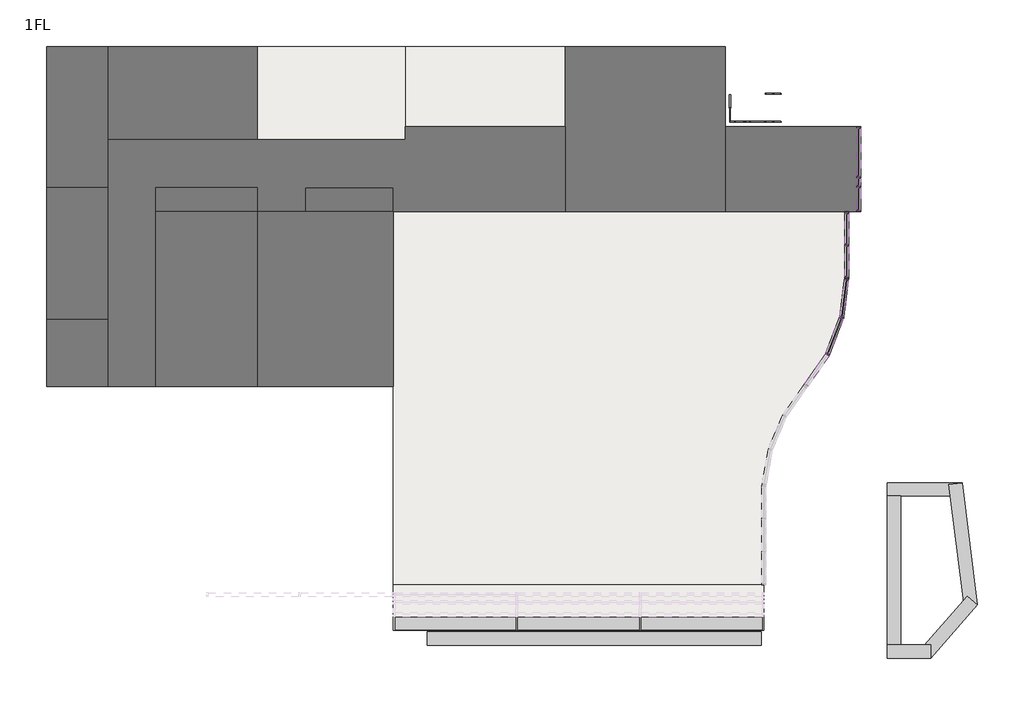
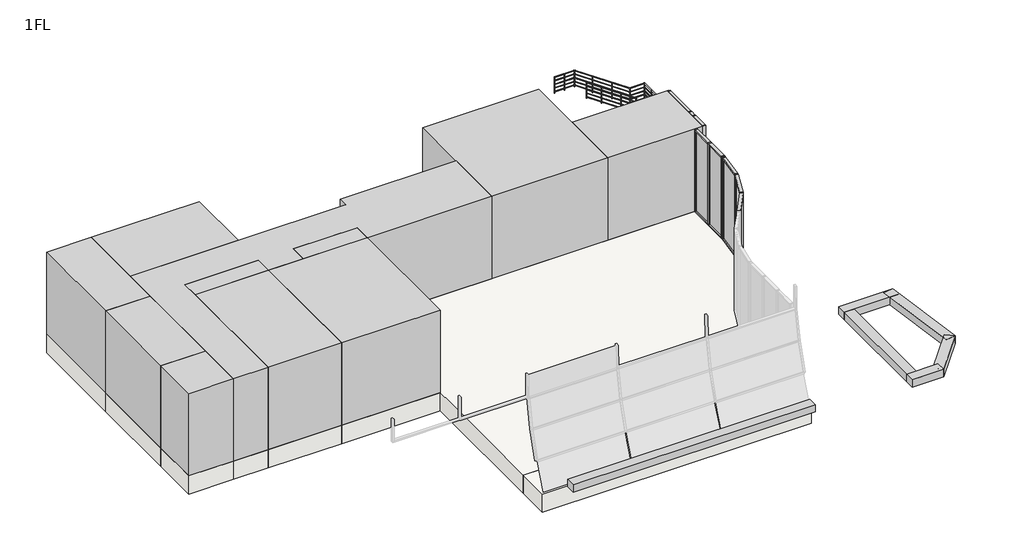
# One storey, part 2 of 2: 25 members, 15 slabs, 11 proxies, 6 geographic elements, 6 plates, 2 railings.
"""IFC4 building model written with IfcOpenShell, lengths in millimetres."""

from ifc_helpers import new_model, si_unit, point, frame, frame_2d, origin, place, context, project, spatial, polyline, circle_curve, trimmed, segment, composite_curve, outline, extrude, transform, mapped, element, save
from components import geographic_element_877a311b, geographic_element_e2d250f7, geographic_element_8ce92ec4, geographic_element_d346bba0, geographic_element_a76cbde5, geographic_element_775aa53c, member_70x150_003f591b, member_70x150_271f9d11, member_70x150_618c0de7, member_70x150_2bca83e0, member_70x150_567bd6b5, member_70x150_65f8fb8c, member_70x150_3043e185, member_70x150_30ccfd44, member_70x150_5d60a7e3, plate_c99299e2, plate_86cfdeea, plate_8e4a2d0e, plate_e174b267, plate_c840b4a1, railing_7acc2935, railing_788aefdd, railing_d2a92688

model = new_model("IFC4")

# Units and contexts
model_context = context("Model", 3, world=origin())
ifc_project = project(units=[si_unit("LENGTHUNIT", "METRE", prefix="MILLI")], contexts=[model_context])

# Site, building, storey
site = spatial("IfcSite", under=ifc_project)
building = spatial("IfcBuilding", under=site)
storey = spatial("IfcBuildingStorey", under=building, Name="1FL", Elevation=100.0)

# Proxies
placement = place(None, origin())
element("IfcBuildingElementProxy", 1, Name="i_共用 : i_共用", ObjectType="i_共用 : i_共用", at=placement, inside=storey, context=model_context, shape_type="SweptSolid", body=[
    extrude(outline(polyline([(-3395.9784025, 16649.6868987), (-3395.9784025, 10449.6868987), (-9395.9784025, 10449.6868987), (-9395.9784025, 16649.6868987), (-3395.9784025, 16649.6868987)])), frame((0.0, 0.0, 100.0), z_axis=(0.0, 0.0, 1.0), x_axis=(1.0, 0.0, 0.0)), (0.0, 0.0, 1.0), 4500.0),
])
element("IfcBuildingElementProxy", 2, Name="i_共用1 : i_共用", ObjectType="i_共用1 : i_共用", at=placement, inside=storey, context=model_context, shape_type="SweptSolid", body=[
    extrude(outline(polyline([(1604.0215975, 13649.6868987), (1604.0215975, 10449.6868987), (-3395.9784025, 10449.6868987), (-3395.9784025, 13649.6868987), (1604.0215975, 13649.6868987)])), frame((0.0, 0.0, 100.0), z_axis=(0.0, 0.0, 1.0), x_axis=(1.0, 0.0, 0.0)), (0.0, 0.0, 1.0), 4500.0),
])
element("IfcBuildingElementProxy", 3, Name="i_共用2 : i_共用", ObjectType="i_共用2 : i_共用", at=placement, inside=storey, context=model_context, shape_type="SweptSolid", body=[
    extrude(outline(polyline([(-15845.9784025, 10449.6868987), (-15845.9784025, 3899.6868987), (-20945.9784025, 3899.6868987), (-20945.9784025, 10449.6868987), (-15845.9784025, 10449.6868987)])), frame((0.0, 0.0, 100.0), z_axis=(0.0, 0.0, 1.0), x_axis=(1.0, 0.0, 0.0)), (0.0, 0.0, 1.0), 4500.0),
])
element("IfcBuildingElementProxy", 4, Name="i_共用3 : i_共用", ObjectType="i_共用3 : i_共用", at=placement, inside=storey, context=model_context, shape_type="SweptSolid", body=[
    extrude(outline(polyline([(-20945.9784025, 10449.6868987), (-20945.9784025, 3899.6868987), (-24745.9784025, 3899.6868987), (-24745.9784025, 10449.6868987), (-20945.9784025, 10449.6868987)])), frame((0.0, 0.0, 100.0), z_axis=(0.0, 0.0, 1.0), x_axis=(1.0, 0.0, 0.0)), (0.0, 0.0, 1.0), 4500.0),
])
element("IfcBuildingElementProxy", 5, Name="i_共用5 : i_共用", ObjectType="i_共用5 : i_共用", at=placement, inside=storey, context=model_context, shape_type="SweptSolid", body=[
    extrude(outline(polyline([(-26545.9784025, 6399.6868987), (-26545.9784025, 3899.6868987), (-28845.9784025, 3899.6868987), (-28845.9784025, 6399.6868987), (-26545.9784025, 6399.6868987)])), frame((0.0, 0.0, 100.0), z_axis=(0.0, 0.0, 1.0), x_axis=(1.0, 0.0, 0.0)), (0.0, 0.0, 1.0), 4500.0),
])
element("IfcBuildingElementProxy", 6, Name="i_共用6 : i_共用", ObjectType="i_共用6 : i_共用", at=placement, inside=storey, context=model_context, shape_type="SweptSolid", body=[
    extrude(outline(polyline([(-26545.9784025, 11349.6868987), (-26545.9784025, 6399.6868987), (-28845.9784025, 6399.6868987), (-28845.9784025, 11349.6868987), (-26545.9784025, 11349.6868987)])), frame((0.0, 0.0, 100.0), z_axis=(0.0, 0.0, 1.0), x_axis=(1.0, 0.0, 0.0)), (0.0, 0.0, 1.0), 4500.0),
])
element("IfcBuildingElementProxy", 7, Name="i_共用4 : i_共用", ObjectType="i_共用4 : i_共用", at=placement, inside=storey, context=model_context, shape_type="SweptSolid", body=[
    extrude(outline(polyline([(-20945.9784025, 11349.6868987), (-20945.9784025, 10449.6868987), (-24745.9784025, 10449.6868987), (-24745.9784025, 11349.6868987), (-20945.9784025, 11349.6868987)])), frame((0.0, 0.0, 100.0), z_axis=(0.0, 0.0, 1.0), x_axis=(1.0, 0.0, 0.0)), (0.0, 0.0, 1.0), 4500.0),
])
element("IfcBuildingElementProxy", 8, Name="i_共用7 : i_共用", ObjectType="i_共用7 : i_共用", at=placement, inside=storey, context=model_context, shape_type="SweptSolid", body=[
    extrude(outline(polyline([(-15845.9784025, 11349.6868987), (-15845.9784025, 10449.6868987), (-19145.9784025, 10449.6868987), (-19145.9784025, 11349.6868987), (-15845.9784025, 11349.6868987)])), frame((0.0, 0.0, 100.0), z_axis=(0.0, 0.0, 1.0), x_axis=(1.0, 0.0, 0.0)), (0.0, 0.0, 1.0), 4500.0),
])
element("IfcBuildingElementProxy", 9, Name="i_便所2 : i_便所2", ObjectType="i_便所2 : i_便所2", at=placement, inside=storey, context=model_context, shape_type="SweptSolid", body=[
    extrude(outline(polyline([(-20945.9784025, 13149.6868987), (-26545.9784025, 13149.6868987), (-26545.9784025, 16649.6868987), (-20945.9784025, 16649.6868987), (-20945.9784025, 13149.6868987)])), frame((0.0, 0.0, 100.0), z_axis=(0.0, 0.0, 1.0), x_axis=(1.0, 0.0, 0.0)), (0.0, 0.0, 1.0), 4500.0),
])
element("IfcBuildingElementProxy", 10, Name="i_共用8 : i_共用8", ObjectType="i_共用8 : i_共用8", at=placement, inside=storey, context=model_context, shape_type="SweptSolid", body=[
    extrude(outline(polyline([(-26545.9784025, 3899.6868987), (-26545.9784025, 13149.6868987), (-15395.9784025, 13149.6868987), (-15395.9784025, 13649.6868987), (-9395.9784025, 13649.6868987), (-9395.9784025, 10449.6868987), (-15845.9784025, 10449.6868987), (-15845.9784025, 11349.6868987), (-19145.9784025, 11349.6868987), (-19145.9784025, 10449.6868987), (-20945.9784025, 10449.6868987), (-20945.9784025, 11349.6868987), (-24745.9784025, 11349.6868987), (-24745.9784025, 3899.6868987), (-26545.9784025, 3899.6868987)])), frame((0.0, 0.0, 100.0), z_axis=(0.0, 0.0, 1.0), x_axis=(1.0, 0.0, 0.0)), (0.0, 0.0, 1.0), 4500.0),
])
element("IfcBuildingElementProxy", 11, Name="i_便所3 : i_便所2", ObjectType="i_便所3 : i_便所2", at=placement, inside=storey, context=model_context, shape_type="SweptSolid", body=[
    extrude(outline(polyline([(-26545.9784025, 11349.6868987), (-28845.9784025, 11349.6868987), (-28845.9784025, 16649.6868987), (-26545.9784025, 16649.6868987), (-26545.9784025, 11349.6868987)])), frame((0.0, 0.0, 100.0), z_axis=(0.0, 0.0, 1.0), x_axis=(1.0, 0.0, 0.0)), (0.0, 0.0, 1.0), 4500.0),
])

# Geographic elements
geographic_element_shape = geographic_element_877a311b(model_context)
element("IfcGeographicElement", 12, ObjectType="r 低木密植 : 低木密植", at=placement, inside=storey, context=model_context, shape_type="MappedRepresentation", body=[
    mapped(geographic_element_shape, transform((4304.0214212, -6300.3135097, 100.0), x_axis=(0.6591967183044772, 0.7519705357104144, 0.0), y_axis=(-0.7519705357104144, 0.6591967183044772, 0.0), z_axis=(0.0, 0.0, 1.0))),
])
geographic_element_2_shape = geographic_element_e2d250f7(model_context)
element("IfcGeographicElement", 13, ObjectType="r 低木密植 : 低木密植", at=placement, inside=storey, context=model_context, shape_type="MappedRepresentation", body=[
    mapped(geographic_element_2_shape, transform((5483.6861702, 282.9637955, 100.0), x_axis=(-1.0, 0.0, 0.0), y_axis=(0.0, -1.0, 0.0), z_axis=(0.0, 0.0, 1.0))),
])
geographic_element_3_shape = geographic_element_8ce92ec4(model_context)
element("IfcGeographicElement", 14, ObjectType="r 低木密植 : 低木密植", at=placement, inside=storey, context=model_context, shape_type="MappedRepresentation", body=[
    mapped(geographic_element_3_shape, transform((2683.6861702, -217.0362045, 100.0), x_axis=(0.0, -1.0, 0.0), y_axis=(1.0, 0.0, 0.0), z_axis=(0.0, 0.0, 1.0))),
])
geographic_element_4_shape = geographic_element_d346bba0(model_context)
element("IfcGeographicElement", 15, ObjectType="r 低木密植 : 低木密植", at=placement, inside=storey, context=model_context, shape_type="MappedRepresentation", body=[
    mapped(geographic_element_4_shape, transform((2683.6861702, -6300.3135097, 100.0), x_axis=(1.0, 0.0, 0.0), y_axis=(0.0, 1.0, 0.0), z_axis=(0.0, 0.0, 1.0))),
])
geographic_element_5_shape = geographic_element_a76cbde5(model_context)
element("IfcGeographicElement", 16, ObjectType="r 低木密植 : 低木密植", at=placement, inside=storey, context=model_context, shape_type="MappedRepresentation", body=[
    mapped(geographic_element_5_shape, transform((6057.2732352, -4300.3131013, 100.0), x_axis=(-0.12417914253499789, 0.9922598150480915, 0.0), y_axis=(-0.9922598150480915, -0.12417914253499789, 0.0), z_axis=(0.0, 0.0, 1.0))),
])
geographic_element_6_shape = geographic_element_775aa53c(model_context)
element("IfcGeographicElement", 17, ObjectType="r 低木密植 : 低木密植", at=placement, inside=storey, context=model_context, shape_type="MappedRepresentation", body=[
    mapped(geographic_element_6_shape, transform((-14574.0228018, -5807.9840539, 100.0), x_axis=(1.0, 0.0, 0.0), y_axis=(0.0, 1.0, 0.0), z_axis=(0.0, 0.0, 1.0))),
])

# Members
member_70x150_shape = member_70x150_003f591b(model_context)
element("IfcMember", 18, ObjectType="長方形のマリオン : 70x150", at=placement, inside=storey, context=model_context, shape_type="MappedRepresentation", body=[
    mapped(member_70x150_shape, transform((1154.0215975, 9199.6868987, 4600.0), x_axis=(0.0, -1.0, 0.0), y_axis=(1.0, 0.0, 0.0), z_axis=(0.0, 0.0, 1.0))),
])
element("IfcMember", 19, ObjectType="長方形のマリオン : 70x150", at=placement, inside=storey, context=model_context, shape_type="MappedRepresentation", body=[
    mapped(member_70x150_shape, transform((1604.0215975, 11389.6868987, 4600.0), x_axis=(0.0, -1.0, 0.0), y_axis=(1.0, 0.0, 0.0), z_axis=(0.0, 0.0, 1.0))),
])
element("IfcMember", 20, ObjectType="長方形のマリオン : 70x150", at=placement, inside=storey, context=model_context, shape_type="MappedRepresentation", body=[
    mapped(member_70x150_shape, transform((1604.0215975, 11749.6868987, 4600.0), x_axis=(0.0, -1.0, 0.0), y_axis=(1.0, 0.0, 0.0), z_axis=(0.0, 0.0, 1.0))),
])
member_70x150_2_shape = member_70x150_271f9d11(model_context)
element("IfcMember", 21, ObjectType="長方形のマリオン : 70x150", at=placement, inside=storey, context=model_context, shape_type="MappedRepresentation", body=[
    mapped(member_70x150_2_shape, transform((1154.0215975, 7949.6868987, 4600.0), x_axis=(0.0, -1.0, 0.0), y_axis=(1.0, 0.0, 0.0), z_axis=(0.0, 0.0, 1.0))),
])
element("IfcMember", 22, ObjectType="長方形のマリオン : 70x150", at=placement, inside=storey, context=model_context, shape_type="MappedRepresentation", body=[
    mapped(member_70x150_2_shape, transform((1604.0215975, 10449.6868987, 4600.0), x_axis=(0.0, -1.0, 0.0), y_axis=(1.0, 0.0, 0.0), z_axis=(0.0, 0.0, 1.0))),
])
element("IfcMember", 23, ObjectType="長方形のマリオン : 70x150", at=placement, inside=storey, context=model_context, shape_type="MappedRepresentation", body=[
    mapped(member_70x150_2_shape, transform((1154.0215975, 7949.6868987, 100.0), x_axis=(0.1239062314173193, 0.9922939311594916, 0.0), y_axis=(0.9922939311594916, -0.1239062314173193, 0.0), z_axis=(0.0, 0.0, -1.0))),
])
element("IfcMember", 24, ObjectType="長方形のマリオン : 70x150", at=placement, inside=storey, context=model_context, shape_type="MappedRepresentation", body=[
    mapped(member_70x150_2_shape, transform((1154.0215975, 10449.6868987, 100.0), x_axis=(0.0, 1.0, 0.0), y_axis=(1.0, 0.0, 0.0), z_axis=(0.0, 0.0, -1.0))),
])
element("IfcMember", 25, ObjectType="長方形のマリオン : 70x150", at=placement, inside=storey, context=model_context, shape_type="MappedRepresentation", body=[
    mapped(member_70x150_2_shape, transform((1604.0215975, 13649.6868987, 100.0), x_axis=(0.0, 1.0, 0.0), y_axis=(1.0, 0.0, 0.0), z_axis=(0.0, 0.0, -1.0))),
])
member_70x150_3_shape = member_70x150_618c0de7(model_context)
element("IfcMember", 26, ObjectType="長方形のマリオン : 70x150", at=placement, inside=storey, context=model_context, shape_type="MappedRepresentation", body=[
    mapped(member_70x150_3_shape, transform((958.8788211, 6454.3992325, 4600.0), x_axis=(0.0, 0.0, 1.0), y_axis=(0.9339386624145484, -0.3574333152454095, 0.0), z_axis=(0.3574333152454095, 0.9339386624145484, 0.0))),
])
member_70x150_4_shape = member_70x150_2bca83e0(model_context)
element("IfcMember", 27, ObjectType="長方形のマリオン : 70x150", at=placement, inside=storey, context=model_context, shape_type="MappedRepresentation", body=[
    mapped(member_70x150_4_shape, transform((424.5884361, 5081.7490249, 4600.0), x_axis=(0.0, 0.0, 1.0), y_axis=(0.8214707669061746, -0.570250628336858, 0.0), z_axis=(0.570250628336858, 0.8214707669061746, 0.0))),
])
element("IfcMember", 28, ObjectType="長方形のマリオン : 70x150", at=placement, inside=storey, context=model_context, shape_type="MappedRepresentation", body=[
    mapped(member_70x150_4_shape, transform((975.7257052, 6521.8173733, 100.0), x_axis=(0.0, 0.0, -1.0), y_axis=(0.9922939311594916, -0.12390623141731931, 0.0), z_axis=(-0.1239062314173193, -0.9922939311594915, 0.0))),
])
element("IfcMember", 29, ObjectType="長方形のマリオン : 70x150", at=placement, inside=storey, context=model_context, shape_type="MappedRepresentation", body=[
    mapped(member_70x150_3_shape, transform((457.0573741, 5143.1883549, 100.0), x_axis=(0.0, 0.0, -1.0), y_axis=(0.9339386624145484, -0.3574333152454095, 0.0), z_axis=(-0.35743331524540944, -0.9339386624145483, 0.0))),
])
element("IfcMember", 30, ObjectType="長方形のマリオン : 70x150", at=placement, inside=storey, context=model_context, shape_type="MappedRepresentation", body=[
    mapped(member_70x150_shape, transform((971.3889871, 6487.0870857, 100.0), x_axis=(0.24243199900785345, 0.9701684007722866, 0.0), y_axis=(0.9701684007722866, -0.24243199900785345, 0.0), z_axis=(0.0, 0.0, -1.0))),
])
element("IfcMember", 31, ObjectType="長方形のマリオン : 70x150", at=placement, inside=storey, context=model_context, shape_type="MappedRepresentation", body=[
    mapped(member_70x150_shape, transform((444.5472081, 5110.5005017, 100.0), x_axis=(0.4672383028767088, 0.8841314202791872, 0.0), y_axis=(0.8841314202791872, -0.4672383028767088, 0.0), z_axis=(0.0, 0.0, -1.0))),
])
member_70x150_5_shape = member_70x150_567bd6b5(model_context)
element("IfcMember", 32, ObjectType="長方形のマリオン : 70x150", at=placement, inside=storey, context=model_context, shape_type="MappedRepresentation", body=[
    mapped(member_70x150_5_shape, transform((1145.3481613, 7880.2263235, 4600.0), x_axis=(0.0, 0.0, 1.0), y_axis=(0.9922939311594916, -0.12390623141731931, 0.0), z_axis=(0.1239062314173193, 0.9922939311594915, 0.0))),
])
member_70x150_6_shape = member_70x150_65f8fb8c(model_context)
element("IfcMember", 33, ObjectType="長方形のマリオン : 70x150", at=placement, inside=storey, context=model_context, shape_type="MappedRepresentation", body=[
    mapped(member_70x150_6_shape, transform((1154.0215975, 10379.6868987, 4600.0), x_axis=(0.0, 0.0, 1.0), y_axis=(1.0, 0.0, 0.0), z_axis=(0.0, 1.0, 0.0))),
])
element("IfcMember", 34, ObjectType="長方形のマリオン : 70x150", at=placement, inside=storey, context=model_context, shape_type="MappedRepresentation", body=[
    mapped(member_70x150_6_shape, transform((1154.0215975, 9164.6868987, 4600.0), x_axis=(0.0, 0.0, 1.0), y_axis=(1.0, 0.0, 0.0), z_axis=(0.0, 1.0, 0.0))),
])
element("IfcMember", 35, ObjectType="長方形のマリオン : 70x150", at=placement, inside=storey, context=model_context, shape_type="MappedRepresentation", body=[
    mapped(member_70x150_6_shape, transform((1154.0215975, 8019.6868987, 100.0), x_axis=(0.0, 0.0, -1.0), y_axis=(1.0, 0.0, 0.0), z_axis=(0.0, -1.0, 0.0))),
])
element("IfcMember", 36, ObjectType="長方形のマリオン : 70x150", at=placement, inside=storey, context=model_context, shape_type="MappedRepresentation", body=[
    mapped(member_70x150_6_shape, transform((1154.0215975, 9234.6868987, 100.0), x_axis=(0.0, 0.0, -1.0), y_axis=(1.0, 0.0, 0.0), z_axis=(0.0, -1.0, 0.0))),
])
member_70x150_7_shape = member_70x150_3043e185(model_context)
element("IfcMember", 37, ObjectType="長方形のマリオン : 70x150", at=placement, inside=storey, context=model_context, shape_type="MappedRepresentation", body=[
    mapped(member_70x150_7_shape, transform((1604.0215975, 10519.6868987, 100.0), x_axis=(0.0, 0.0, -1.0), y_axis=(1.0, 0.0, 0.0), z_axis=(0.0, -1.0, 0.0))),
])
member_70x150_8_shape = member_70x150_30ccfd44(model_context)
element("IfcMember", 38, ObjectType="長方形のマリオン : 70x150", at=placement, inside=storey, context=model_context, shape_type="MappedRepresentation", body=[
    mapped(member_70x150_8_shape, transform((1604.0215975, 13579.6868987, 4600.0), x_axis=(0.0, 0.0, 1.0), y_axis=(1.0, 0.0, 0.0), z_axis=(0.0, 1.0, 0.0))),
])
element("IfcMember", 39, ObjectType="長方形のマリオン : 70x150", at=placement, inside=storey, context=model_context, shape_type="MappedRepresentation", body=[
    mapped(member_70x150_7_shape, transform((1604.0215975, 11354.6868987, 4600.0), x_axis=(0.0, 0.0, 1.0), y_axis=(1.0, 0.0, 0.0), z_axis=(0.0, 1.0, 0.0))),
])
member_70x150_9_shape = member_70x150_5d60a7e3(model_context)
element("IfcMember", 40, ObjectType="長方形のマリオン : 70x150", at=placement, inside=storey, context=model_context, shape_type="MappedRepresentation", body=[
    mapped(member_70x150_9_shape, transform((1604.0215975, 11714.6868987, 4600.0), x_axis=(0.0, 0.0, 1.0), y_axis=(1.0, 0.0, 0.0), z_axis=(0.0, 1.0, 0.0))),
])
element("IfcMember", 41, ObjectType="長方形のマリオン : 70x150", at=placement, inside=storey, context=model_context, shape_type="MappedRepresentation", body=[
    mapped(member_70x150_9_shape, transform((1604.0215975, 11424.6868987, 100.0), x_axis=(0.0, 0.0, -1.0), y_axis=(1.0, 0.0, 0.0), z_axis=(0.0, -1.0, 0.0))),
])
element("IfcMember", 42, ObjectType="長方形のマリオン : 70x150", at=placement, inside=storey, context=model_context, shape_type="MappedRepresentation", body=[
    mapped(member_70x150_8_shape, transform((1604.0215975, 11784.6868987, 100.0), x_axis=(0.0, 0.0, -1.0), y_axis=(1.0, 0.0, 0.0), z_axis=(0.0, -1.0, 0.0))),
])

# Plates
plate_shape = plate_c99299e2(model_context)
element("IfcPlate", 43, ObjectType="システム パネル : 標準", at=placement, inside=storey, context=model_context, shape_type="MappedRepresentation", body=[
    mapped(plate_shape, transform((1060.5369333, 7201.0218484, 170.0), x_axis=(0.1239062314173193, 0.9922939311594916, 0.0), y_axis=(-0.9922939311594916, 0.1239062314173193, 0.0), z_axis=(0.0, 0.0, 1.0))),
])
plate_2_shape = plate_86cfdeea(model_context)
element("IfcPlate", 44, ObjectType="システム パネル : 標準", at=placement, inside=storey, context=model_context, shape_type="MappedRepresentation", body=[
    mapped(plate_2_shape, transform((1154.0215975, 9807.1868987, 170.0), x_axis=(0.0, -1.0, 0.0), y_axis=(1.0, 0.0, 0.0), z_axis=(0.0, 0.0, 1.0))),
])
element("IfcPlate", 45, ObjectType="システム パネル : 標準", at=placement, inside=storey, context=model_context, shape_type="MappedRepresentation", body=[
    mapped(plate_2_shape, transform((1154.0215975, 8592.1868987, 170.0), x_axis=(0.0, -1.0, 0.0), y_axis=(1.0, 0.0, 0.0), z_axis=(0.0, 0.0, 1.0))),
])
plate_3_shape = plate_8e4a2d0e(model_context)
element("IfcPlate", 46, ObjectType="システム パネル : 標準", at=placement, inside=storey, context=model_context, shape_type="MappedRepresentation", body=[
    mapped(plate_3_shape, transform((1604.0215975, 12682.1868987, 170.0), x_axis=(0.0, -1.0, 0.0), y_axis=(1.0, 0.0, 0.0), z_axis=(0.0, 0.0, 1.0))),
])
plate_4_shape = plate_e174b267(model_context)
element("IfcPlate", 47, ObjectType="システム パネル : 標準", at=placement, inside=storey, context=model_context, shape_type="MappedRepresentation", body=[
    mapped(plate_4_shape, transform((1604.0215975, 11569.6868987, 170.0), x_axis=(0.0, -1.0, 0.0), y_axis=(1.0, 0.0, 0.0), z_axis=(0.0, 0.0, 1.0))),
])
plate_5_shape = plate_c840b4a1(model_context)
element("IfcPlate", 48, ObjectType="システム パネル : 標準", at=placement, inside=storey, context=model_context, shape_type="MappedRepresentation", body=[
    mapped(plate_5_shape, transform((1604.0215975, 10937.1868987, 170.0), x_axis=(0.0, -1.0, 0.0), y_axis=(1.0, 0.0, 0.0), z_axis=(0.0, 0.0, 1.0))),
])

# Railings
railing_shape = railing_7acc2935(model_context)
railing_2_shape = railing_788aefdd(model_context)
element("IfcRailing", 49, ObjectType="r パイプ H900", at=placement, inside=storey, context=model_context, shape_type="MappedRepresentation", body=[
    mapped(railing_shape, transform((0.0, 0.0, 0.0), x_axis=(1.0, 0.0, 0.0), y_axis=(0.0, 1.0, 0.0), z_axis=(0.0, 0.0, 1.0))),
    mapped(railing_2_shape, transform((0.0, 0.0, 0.0), x_axis=(1.0, 0.0, 0.0), y_axis=(0.0, 1.0, 0.0), z_axis=(0.0, 0.0, 1.0))),
])
railing_3_shape = railing_d2a92688(model_context)
element("IfcRailing", 50, ObjectType="r パイプ H900", at=placement, inside=storey, context=model_context, shape_type="MappedRepresentation", body=[
    mapped(railing_3_shape, transform((0.0, 0.0, 0.0), x_axis=(1.0, 0.0, 0.0), y_axis=(0.0, 1.0, 0.0), z_axis=(0.0, 0.0, 1.0))),
])

# Slabs
element("IfcSlab", 51, ObjectType="企画1000", at=placement, inside=storey, context=model_context, shape_type="SweptSolid", body=[
    extrude(outline(polyline([(-3395.9784025, 16649.6868987), (-3395.9784025, 10449.6868987), (-9395.9784025, 10449.6868987), (-9395.9784025, 16649.6868987), (-3395.9784025, 16649.6868987)])), frame((0.0, 0.0, -900.0), z_axis=(0.0, 0.0, 1.0), x_axis=(1.0, 0.0, 0.0)), (0.0, 0.0, 1.0), 1000.0),
])
element("IfcSlab", 52, ObjectType="企画1000", at=placement, inside=storey, context=model_context, shape_type="SweptSolid", body=[
    extrude(outline(polyline([(-9395.9784025, 16649.6868987), (-9395.9784025, 13649.6868987), (-15395.9784025, 13649.6868987), (-15395.9784025, 16649.6868987), (-9395.9784025, 16649.6868987)])), frame((0.0, 0.0, -900.0), z_axis=(0.0, 0.0, 1.0), x_axis=(1.0, 0.0, 0.0)), (0.0, 0.0, 1.0), 1000.0),
])
element("IfcSlab", 53, ObjectType="企画1000", at=placement, inside=storey, context=model_context, shape_type="SweptSolid", body=[
    extrude(outline(polyline([(-20945.9784025, 11349.6868987), (-20945.9784025, 10449.6868987), (-24745.9784025, 10449.6868987), (-24745.9784025, 11349.6868987), (-20945.9784025, 11349.6868987)])), frame((0.0, 0.0, -900.0), z_axis=(0.0, 0.0, 1.0), x_axis=(1.0, 0.0, 0.0)), (0.0, 0.0, 1.0), 1000.0),
])
element("IfcSlab", 54, ObjectType="企画1000", at=placement, inside=storey, context=model_context, shape_type="SweptSolid", body=[
    extrude(outline(polyline([(1604.0215975, 13649.6868987), (1604.0215975, 10449.6868987), (-3395.9784025, 10449.6868987), (-3395.9784025, 13649.6868987), (1604.0215975, 13649.6868987)])), frame((0.0, 0.0, -900.0), z_axis=(0.0, 0.0, 1.0), x_axis=(1.0, 0.0, 0.0)), (0.0, 0.0, 1.0), 1000.0),
])
element("IfcSlab", 55, ObjectType="企画1000", at=placement, inside=storey, context=model_context, shape_type="SweptSolid", body=[
    extrude(outline(polyline([(-15845.9784025, 11349.6868987), (-15845.9784025, 10449.6868987), (-19145.9784025, 10449.6868987), (-19145.9784025, 11349.6868987), (-15845.9784025, 11349.6868987)])), frame((0.0, 0.0, -900.0), z_axis=(0.0, 0.0, 1.0), x_axis=(1.0, 0.0, 0.0)), (0.0, 0.0, 1.0), 1000.0),
])
element("IfcSlab", 56, ObjectType="企画1000", at=placement, inside=storey, context=model_context, shape_type="SweptSolid", body=[
    extrude(outline(composite_curve([segment(polyline([(1154.0215975, 10449.6868987), (1154.0215975, 7949.6868987)]), True, "CONTINUOUS"), segment(trimmed(circle_curve(frame_2d((-4969.3732678, 7971.6034521)), 6123.4340865), [point((1154.0215975, 7949.6868987))], [point((-395.9784025, 3899.6868987))], False, "CARTESIAN"), True, "CONTINUOUS"), segment(trimmed(circle_curve(frame_2d((4214.6177511, -205.3517764)), 6173.2438325), [point((-395.9784025, 3899.6868987))], [point((-1945.9784025, 189.6095485))], True, "CARTESIAN"), True, "CONTINUOUS"), segment(polyline([(-1945.9784025, 189.6095485), (-1945.9784025, -3550.3131013), (-15845.9784025, -3550.3131013), (-15845.9784025, 10449.6868987), (1154.0215975, 10449.6868987)]), True, "CONTINUOUS")], self_intersect=False)), frame((0.0, 0.0, -900.0), z_axis=(0.0, 0.0, 1.0), x_axis=(1.0, 0.0, 0.0)), (0.0, 0.0, 1.0), 1000.0),
])
element("IfcSlab", 57, ObjectType="企画1000", at=placement, inside=storey, context=model_context, shape_type="SweptSolid", body=[
    extrude(outline(polyline([(-20945.9784025, 13149.6868987), (-26545.9784025, 13149.6868987), (-26545.9784025, 16649.6868987), (-20945.9784025, 16649.6868987), (-20945.9784025, 13149.6868987)])), frame((0.0, 0.0, -900.0), z_axis=(0.0, 0.0, 1.0), x_axis=(1.0, 0.0, 0.0)), (0.0, 0.0, 1.0), 1000.0),
])
element("IfcSlab", 58, ObjectType="企画1000", at=placement, inside=storey, context=model_context, shape_type="SweptSolid", body=[
    extrude(outline(polyline([(-20945.9784025, 10449.6868987), (-20945.9784025, 3899.6868987), (-24745.9784025, 3899.6868987), (-24745.9784025, 10449.6868987), (-20945.9784025, 10449.6868987)])), frame((0.0, 0.0, -900.0), z_axis=(0.0, 0.0, 1.0), x_axis=(1.0, 0.0, 0.0)), (0.0, 0.0, 1.0), 1000.0),
])
element("IfcSlab", 59, ObjectType="企画1000", at=placement, inside=storey, context=model_context, shape_type="SweptSolid", body=[
    extrude(outline(polyline([(-15845.9784025, 10449.6868987), (-15845.9784025, 3899.6868987), (-20945.9784025, 3899.6868987), (-20945.9784025, 10449.6868987), (-15845.9784025, 10449.6868987)])), frame((0.0, 0.0, -900.0), z_axis=(0.0, 0.0, 1.0), x_axis=(1.0, 0.0, 0.0)), (0.0, 0.0, 1.0), 1000.0),
])
element("IfcSlab", 60, ObjectType="企画1000", at=placement, inside=storey, context=model_context, shape_type="SweptSolid", body=[
    extrude(outline(polyline([(-15395.9784025, 16649.6868987), (-15395.9784025, 13149.6868987), (-20945.9784025, 13149.6868987), (-20945.9784025, 16649.6868987), (-15395.9784025, 16649.6868987)])), frame((0.0, 0.0, -900.0), z_axis=(0.0, 0.0, 1.0), x_axis=(1.0, 0.0, 0.0)), (0.0, 0.0, 1.0), 1000.0),
])
element("IfcSlab", 61, ObjectType="企画1000", at=placement, inside=storey, context=model_context, shape_type="SweptSolid", body=[
    extrude(outline(polyline([(-26545.9784025, 6399.6868987), (-26545.9784025, 3899.6868987), (-28845.9784025, 3899.6868987), (-28845.9784025, 6399.6868987), (-26545.9784025, 6399.6868987)])), frame((0.0, 0.0, -900.0), z_axis=(0.0, 0.0, 1.0), x_axis=(1.0, 0.0, 0.0)), (0.0, 0.0, 1.0), 1000.0),
])
element("IfcSlab", 62, ObjectType="企画1000", at=placement, inside=storey, context=model_context, shape_type="SweptSolid", body=[
    extrude(outline(polyline([(-26545.9784025, 11349.6868987), (-26545.9784025, 6399.6868987), (-28845.9784025, 6399.6868987), (-28845.9784025, 11349.6868987), (-26545.9784025, 11349.6868987)])), frame((0.0, 0.0, -900.0), z_axis=(0.0, 0.0, 1.0), x_axis=(1.0, 0.0, 0.0)), (0.0, 0.0, 1.0), 1000.0),
])
element("IfcSlab", 63, ObjectType="企画1000", at=placement, inside=storey, context=model_context, shape_type="SweptSolid", body=[
    extrude(outline(polyline([(-26545.9784025, 11349.6868987), (-28845.9784025, 11349.6868987), (-28845.9784025, 16649.6868987), (-26545.9784025, 16649.6868987), (-26545.9784025, 11349.6868987)])), frame((0.0, 0.0, -900.0), z_axis=(0.0, 0.0, 1.0), x_axis=(1.0, 0.0, 0.0)), (0.0, 0.0, 1.0), 1000.0),
])
element("IfcSlab", 64, ObjectType="企画1000", at=placement, inside=storey, context=model_context, shape_type="SweptSolid", body=[
    extrude(outline(polyline([(-26545.9784025, 3899.6868987), (-26545.9784025, 13149.6868987), (-15395.9784025, 13149.6868987), (-15395.9784025, 13649.6868987), (-9395.9784025, 13649.6868987), (-9395.9784025, 10449.6868987), (-15845.9784025, 10449.6868987), (-15845.9784025, 11349.6868987), (-19145.9784025, 11349.6868987), (-19145.9784025, 10449.6868987), (-20945.9784025, 10449.6868987), (-20945.9784025, 11349.6868987), (-24745.9784025, 11349.6868987), (-24745.9784025, 3899.6868987), (-26545.9784025, 3899.6868987)])), frame((0.0, 0.0, -900.0), z_axis=(0.0, 0.0, 1.0), x_axis=(1.0, 0.0, 0.0)), (0.0, 0.0, 1.0), 1000.0),
])
element("IfcSlab", 65, ObjectType="企画1000", at=placement, inside=storey, context=model_context, shape_type="SweptSolid", body=[
    extrude(outline(polyline([(-1945.9784025, -3550.3131013), (-1945.9784025, -5250.3131013), (-15845.9784025, -5250.3131013), (-15845.9784025, -3550.3131013), (-1945.9784025, -3550.3131013)])), frame((0.0, 0.0, -900.0), z_axis=(0.0, 0.0, 1.0), x_axis=(1.0, 0.0, 0.0)), (0.0, 0.0, 1.0), 1000.0),
])

save(model, "model.ifc")
